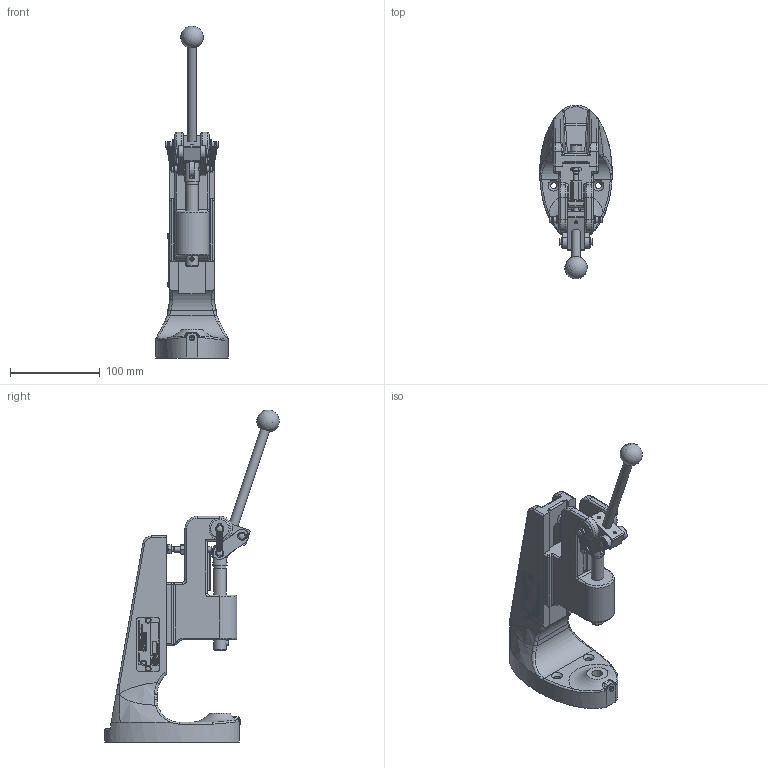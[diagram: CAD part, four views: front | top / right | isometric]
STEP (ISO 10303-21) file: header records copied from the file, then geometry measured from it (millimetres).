
FILE_DESCRIPTION(/* description */ ('Pressenständer HP 150'),/* implementation_level */ '2;1');
FILE_NAME(/* name */ 'B:\02_CAD_oeffentlich\CAD_3D_oeffentlich_step\Kniehebel Presse\HP_150_K.stp',/* time_stamp */ '2017-03-03T11:22:33+01:00',/* author */ ('Finsterle'),/* organization */ (''),/* preprocessor_version */ 'ST-DEVELOPER v16.1',/* originating_system */ 'Autodesk Inventor 2016',/* authorisation */ '');
FILE_SCHEMA (('AUTOMOTIVE_DESIGN { 1 0 10303 214 3 1 1 }'));
Products named in the file (6): HBF-000892; HBF-000912_V; HBF-000314; HBF-000315; DIN 913 - M6 x 16; HBF-000918_V
Assembly tree (6 placements, depth 2):
  HBF-000918_V
    HBF-000892
    HBF-000912_V
    HBF-000314
    HBF-000315  x2
    DIN 913 - M6 x 16
Bounding box: 80.99 x 194.75 x 370.63 mm (x, y, z)
Volume: 783764.4 mm3; surface area: 140261.3 mm2
Topology: 13 solids, 14 shells, 2778 faces, 7465 edges, 4895 vertices
Faces by surface type: plane 1480, bspline 945, cylinder 217, torus 78, cone 35, sphere 23
Full cylindrical faces by diameter (mm): 0.65 x4, 2 x2, 3 x4, 3.2 x2, 4.917 x1, 5 x1, 5.459 x1, 6 x3, 6.4 x1, 6.5 x8, 6.6 x2, 6.647 x1, 7 x17, 7.06 x4, 7.6 x1, 8 x2, 8.4 x2, 8.7 x1, 9.98 x1, 10 x1, 11.1 x2, 12 x1, 13 x4, 13.5 x1, 14 x2, 15.2 x2, 16 x1, 16.5 x2, 19 x1, 20 x2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
Entity records: 106611 total; most frequent: CARTESIAN_POINT 41685, ORIENTED_EDGE 14504, DIRECTION 9527, EDGE_CURVE 7230, VERTEX_POINT 4805, LINE 4505, VECTOR 4505, EDGE_LOOP 3181
